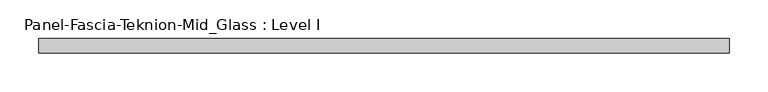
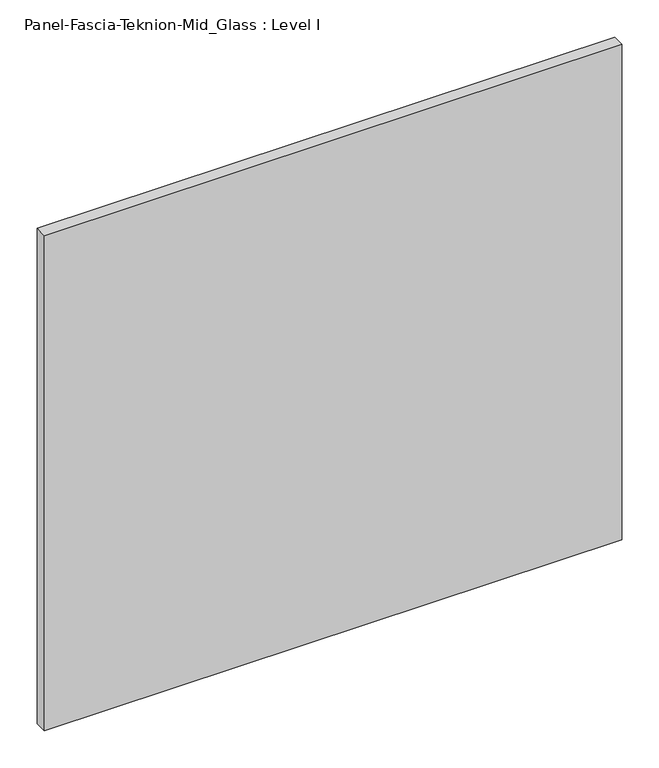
"""IFC4 building model written with IfcOpenShell, lengths in millimetres: proxy geometry, Panel-Fascia-Teknion-Mid_Glass : Level I."""

from ifc_helpers import new_model, si_unit, frame, origin, place, context, project, spatial, polyline, outline, extrude, source, transform, mapped, element, save


def panel_fascia_teknion_mid_glass_level_i_f6f85d3a(model_context):
    return source(origin(), model_context, "Body", "SweptSolid", [
        extrude(outline(polyline([(447.0356344, 9.525), (447.0356344, -9.525), (-447.0356344, -9.525), (-447.0356344, 9.525), (447.0356344, 9.525)])), frame((0.0, 0.0, 3.175), z_axis=(0.0, 0.0, 1.0), x_axis=(1.0, 0.0, 0.0)), (0.0, 0.0, 1.0), 810.768),
    ])


if __name__ == "__main__":
    model = new_model("IFC4")
    model_context = context("Model", 3, world=origin())
    ifc_project = project(units=[si_unit("LENGTHUNIT", "METRE", prefix="MILLI")], contexts=[model_context])
    site = spatial("IfcSite", under=ifc_project)
    building = spatial("IfcBuilding", under=site)
    placement = place(None, origin())
    panel_fascia_teknion_mid_glass_level_i_shape = panel_fascia_teknion_mid_glass_level_i_f6f85d3a(model_context)
    element("IfcBuildingElementProxy", 1, Name="Panel-Fascia-Teknion-Mid_Glass : Level I", ObjectType="Panel-Fascia-Teknion-Mid_Glass : Level I", at=placement, inside=building, context=model_context, shape_type="MappedRepresentation", body=[
        mapped(panel_fascia_teknion_mid_glass_level_i_shape, transform((0.0, 0.0, 0.0), x_axis=(1.0, 0.0, 0.0), y_axis=(0.0, 1.0, 0.0), z_axis=(0.0, 0.0, 1.0))),
    ])
    save(model, "model.ifc")
